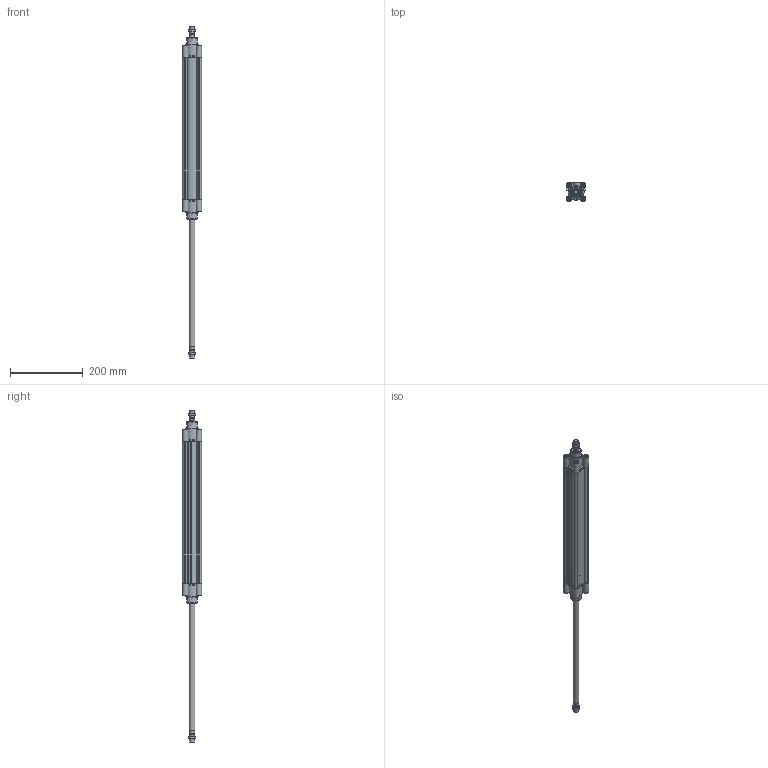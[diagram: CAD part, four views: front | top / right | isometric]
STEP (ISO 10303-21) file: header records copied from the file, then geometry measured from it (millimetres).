
FILE_DESCRIPTION((''),'2;1');
FILE_NAME('I:\Area Tecnica\Disegni\VARIE-3D\Componenti\ECOLIGHT\02\stp\139#_40_0350_02.iam.stp','2012-01-28T09:39:12',(''),(''),'Autodesk Inventor 2012','Autodesk Inventor 2012','');
FILE_SCHEMA(('AUTOMOTIVE_DESIGN { 1 0 10303 214 1 1 1 1 }'));
Length unit declared in the file: millimetre
Products named in the file (5): 139#_40_0350_02; CPL040_004-350; CPL040-001-01; CPL_40SP_0350; 1320_40_18F
Assembly tree (6 placements, depth 2):
  139#_40_0350_02
    CPL040_004-350
    CPL040-001-01  x2
    CPL_40SP_0350
    1320_40_18F  x2
Bounding box: 54 x 54 x 913 mm (x, y, z)
Volume: 614291.9 mm3; surface area: 300358.5 mm2
Topology: 6 solids, 6 shells, 351 faces, 860 edges, 564 vertices
Faces by surface type: plane 211, cylinder 98, cone 40, torus 2
Full cylindrical faces by diameter (mm): 5 x8, 5.5 x4, 8 x2, 10 x8, 10.5 x10, 10.8 x2, 11.6 x2, 12 x2, 15.5 x2, 16 x4, 30 x2, 35 x2, 40 x4
Entity records: 7104 total; most frequent: CARTESIAN_POINT 1295, DIRECTION 1162, ORIENTED_EDGE 1084, EDGE_CURVE 542, AXIS2_PLACEMENT_3D 413, VERTEX_POINT 380, VECTOR 336, LINE 336
